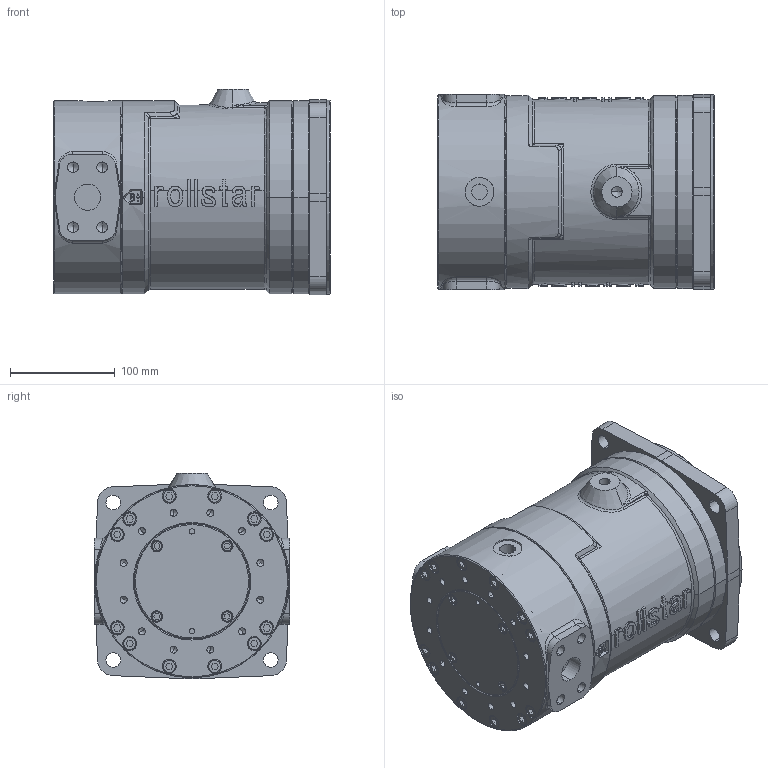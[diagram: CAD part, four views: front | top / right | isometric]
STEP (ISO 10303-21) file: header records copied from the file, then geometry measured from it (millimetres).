
FILE_DESCRIPTION(('Creo Elements/Direct Modeling STEP Export'),'2;1');
FILE_NAME('AM80_110 radial.stp','2017-07-10T14:56:32',(''),(''),'PTC Creo Elements/Direct Modeling STEP processor for AP214 (Solid Model)','PTC Creo Elements/Direct Modeling 19.0C 15-Aug-2015 (C) Parametric Technology GmbH','');
FILE_SCHEMA(('AUTOMOTIVE_DESIGN { 1 0 10303 214 1 1 1 1 }'));
Products named in the file (2): AM80R_110R
Assembly tree (1 placements, depth 2):
  AM80R_110R
    AM80R_110R
Bounding box: 264 x 186 x 195.99 mm (x, y, z)
Volume: 6766912.8 mm3; surface area: 281255.3 mm2
Topology: 1 solids, 1 shells, 1167 faces, 2872 edges, 1809 vertices
Faces by surface type: plane 527, cylinder 345, cone 125, bspline 80, extrusion 77, torus 13
Entity records: 84558 total; most frequent: CARTESIAN_POINT 50213, ORIENTED_EDGE 5668, DIRECTION 4292, EDGE_CURVE 2834, VERTEX_POINT 1809, VECTOR 1600, LINE 1502, AXIS2_PLACEMENT_3D 1346
